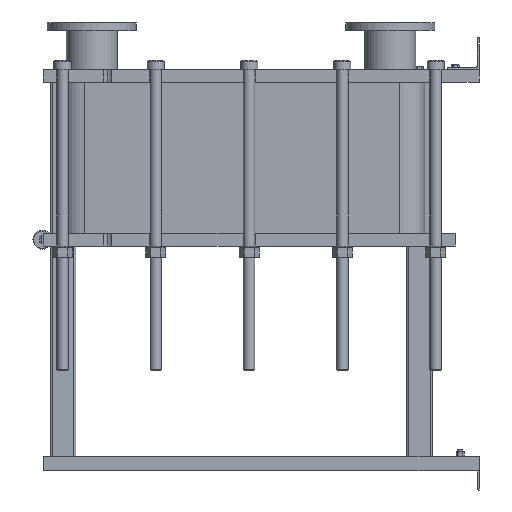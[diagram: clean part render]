
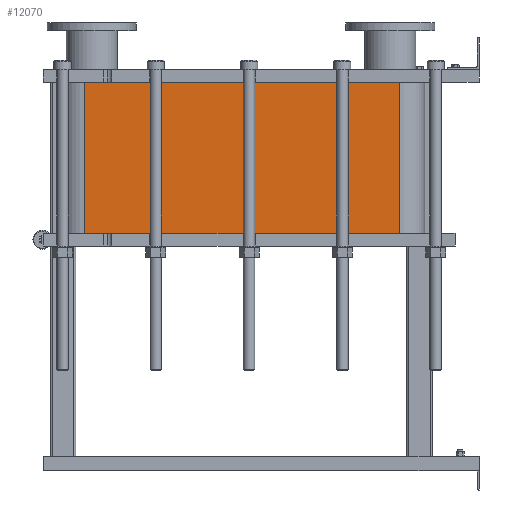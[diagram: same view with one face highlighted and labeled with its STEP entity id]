
A CAD part, left-side view. The second image highlights one B-rep face of the part: STEP entity #12070.
In plain terms, the highlighted planar face has unit normal (-1, 0, 0).
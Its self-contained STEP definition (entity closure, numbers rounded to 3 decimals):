
#1064=LINE('',#21140,#2164);
#1065=LINE('',#21144,#2165);
#1066=LINE('',#21146,#2166);
#1067=LINE('',#21147,#2167);
#2164=VECTOR('',#15790,10.);
#2165=VECTOR('',#15795,10.);
#2166=VECTOR('',#15796,10.);
#2167=VECTOR('',#15797,10.);
#3304=FACE_OUTER_BOUND('',#4091,.T.);
#4091=EDGE_LOOP('',(#9793,#9794,#9795,#9796));
#5677=VERTEX_POINT('',#21137);
#5678=VERTEX_POINT('',#21139);
#5679=VERTEX_POINT('',#21143);
#5680=VERTEX_POINT('',#21145);
#7118=EDGE_CURVE('',#5678,#5677,#1064,.T.);
#7120=EDGE_CURVE('',#5677,#5679,#1065,.T.);
#7121=EDGE_CURVE('',#5680,#5679,#1066,.T.);
#7122=EDGE_CURVE('',#5680,#5678,#1067,.T.);
#9793=ORIENTED_EDGE('',*,*,#7120,.T.);
#9794=ORIENTED_EDGE('',*,*,#7121,.F.);
#9795=ORIENTED_EDGE('',*,*,#7122,.T.);
#9796=ORIENTED_EDGE('',*,*,#7118,.T.);
#11441=PLANE('',#13191);
#12070=ADVANCED_FACE('',(#3304),#11441,.T.);
#13191=AXIS2_PLACEMENT_3D('',#21142,#15793,#15794);
#15790=DIRECTION('',(0.,0.,-1.));
#15793=DIRECTION('center_axis',(-1.,0.,0.));
#15794=DIRECTION('ref_axis',(0.,1.,0.));
#15795=DIRECTION('',(0.,-1.,0.));
#15796=DIRECTION('',(0.,0.,-1.));
#15797=DIRECTION('',(0.,1.,0.));
#21137=CARTESIAN_POINT('',(-248.152,1243.818,-476.1));
#21139=CARTESIAN_POINT('',(-248.152,1243.818,0.));
#21140=CARTESIAN_POINT('',(-248.152,1243.818,0.));
#21142=CARTESIAN_POINT('Origin',(-248.152,251.818,0.));
#21143=CARTESIAN_POINT('',(-248.152,251.818,-476.1));
#21144=CARTESIAN_POINT('',(-248.152,499.818,-476.1));
#21145=CARTESIAN_POINT('',(-248.152,251.818,0.));
#21146=CARTESIAN_POINT('',(-248.152,251.818,0.));
#21147=CARTESIAN_POINT('',(-248.152,251.818,0.));
